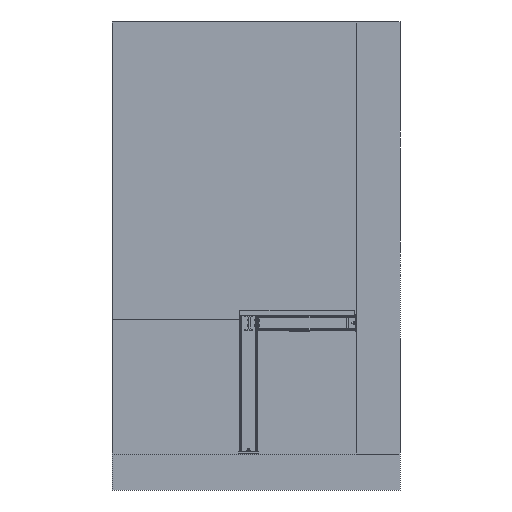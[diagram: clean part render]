
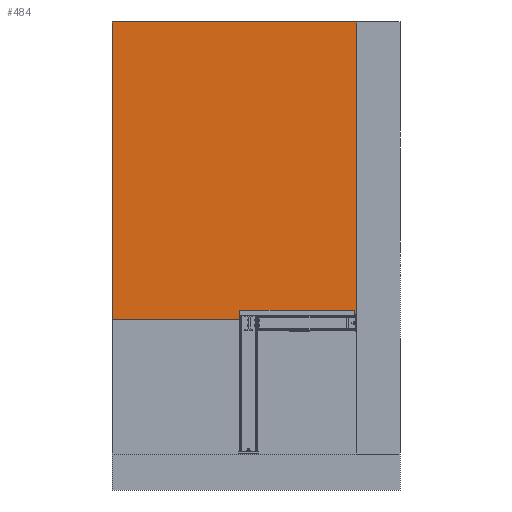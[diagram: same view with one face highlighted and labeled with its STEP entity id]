
A CAD part, front view. The second image highlights one B-rep face of the part: STEP entity #484.
In plain terms, the highlighted planar face has unit normal (0, -1, 0).
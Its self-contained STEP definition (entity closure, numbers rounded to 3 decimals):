
#318=CARTESIAN_POINT('',(3869.707,8616.073,10915.001));
#319=VERTEX_POINT('',#318);
#350=CARTESIAN_POINT('',(5569.708,8616.073,10915.001));
#351=VERTEX_POINT('',#350);
#358=CARTESIAN_POINT('',(3869.707,8616.073,10915.001));
#359=DIRECTION('',(1.,-0.,-0.));
#360=VECTOR('',#359,1700.001);
#361=LINE('',#358,#360);
#362=EDGE_CURVE('',#319,#351,#361,.T.);
#454=CARTESIAN_POINT('',(5569.708,8616.073,9979.9));
#455=DIRECTION('',(0.,1.,0.));
#456=DIRECTION('',(-1.,0.,0.));
#457=AXIS2_PLACEMENT_3D('',#454,#455,#456);
#458=PLANE('',#457);
#459=ORIENTED_EDGE('',*,*,#362,.T.);
#460=CARTESIAN_POINT('',(5569.708,8616.073,12980.));
#461=VERTEX_POINT('',#460);
#462=CARTESIAN_POINT('',(5569.708,8616.073,10915.001));
#463=DIRECTION('',(0.,-0.,1.));
#464=VECTOR('',#463,2064.999);
#465=LINE('',#462,#464);
#466=EDGE_CURVE('',#351,#461,#465,.T.);
#467=ORIENTED_EDGE('',*,*,#466,.T.);
#468=CARTESIAN_POINT('',(3869.707,8616.073,12980.));
#469=VERTEX_POINT('',#468);
#470=CARTESIAN_POINT('',(3869.707,8616.073,12980.));
#471=DIRECTION('',(1.,-0.,-0.));
#472=VECTOR('',#471,1700.001);
#473=LINE('',#470,#472);
#474=EDGE_CURVE('',#469,#461,#473,.T.);
#475=ORIENTED_EDGE('',*,*,#474,.F.);
#476=CARTESIAN_POINT('',(3869.707,8616.073,10915.001));
#477=DIRECTION('',(0.,-0.,1.));
#478=VECTOR('',#477,2064.999);
#479=LINE('',#476,#478);
#480=EDGE_CURVE('',#319,#469,#479,.T.);
#481=ORIENTED_EDGE('',*,*,#480,.F.);
#482=EDGE_LOOP('',(#459,#467,#475,#481));
#483=FACE_BOUND('',#482,.T.);
#484=ADVANCED_FACE('',(#483),#458,.F.);
